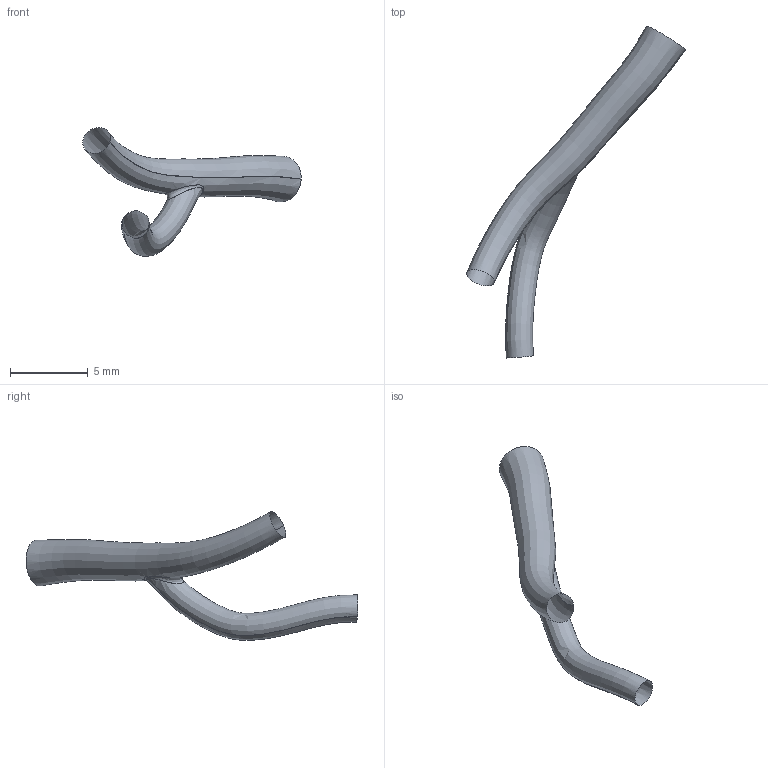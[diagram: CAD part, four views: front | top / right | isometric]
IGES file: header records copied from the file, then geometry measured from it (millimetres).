
Global section: file name: C:\Documents and Settings\Administrator\Desktop\FDA-Pig\Domestic LCA\Pig_000137\om.es.igs; native system: Rhinoceros ( May 19 2006 ); preprocessor: Trout Lake IGES 012 May 19 2006; date: 111205.184228; units: centimetre
Bounding box: 14.04 x 21.35 x 8.3 mm (x, y, z)
Surface area: 220.8 mm2 (no closed solid volume)
Topology: 0 solids, 0 shells, 3 faces, 51 edges, 48 vertices
Faces by surface type: bspline 3
